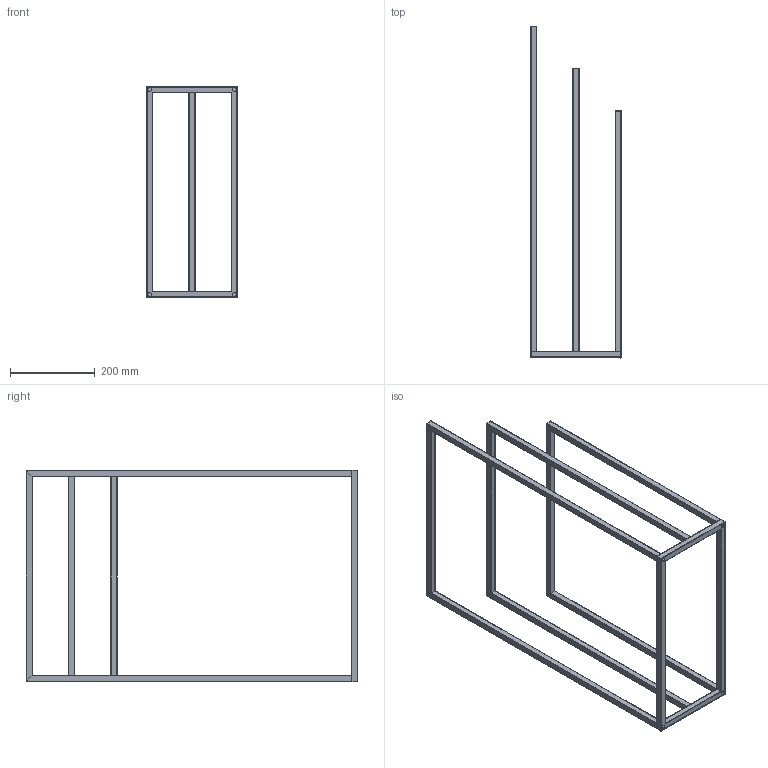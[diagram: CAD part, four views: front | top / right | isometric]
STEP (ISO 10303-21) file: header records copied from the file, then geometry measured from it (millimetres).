
FILE_DESCRIPTION (( 'STEP AP214' ), '1' );
FILE_NAME ('Stojak na 3 rêczniki APPENA.STEP', '2026-04-08T08:26:45', ( '' ), ( '' ), 'SwSTEP 2.0', 'SolidWorks 2021', '' );
FILE_SCHEMA (( 'AUTOMOTIVE_DESIGN' ));
Length unit declared in the file: millimetre
Products named in the file (9): Stojak na 3 rêczniki APPENA; 02-017-0500-S-00-02; 02-017-0500-S-00-01; 02-017-0500-S-00-04; 02-017-0500-S-00-03; 02-017-0500-S-00-05
Assembly tree (13 placements, depth 2):
  Stojak na 3 rêczniki APPENA
    02-017-0500-S-00-01
    02-017-0500-S-00-02
    02-017-0500-S-00-02
    02-017-0500-S-00-01
    02-017-0500-S-00-03  x2
    02-017-0500-S-00-01  x3
    02-017-0500-S-00-04  x2
    02-017-0500-S-00-05  x2
Bounding box: 215 x 785 x 500 mm (x, y, z)
Volume: 544112.2 mm3; surface area: 724469.3 mm2
Topology: 13 solids, 13 shells, 214 faces, 588 edges, 392 vertices
Faces by surface type: plane 138, cylinder 76
Entity records: 5078 total; most frequent: CARTESIAN_POINT 996, ORIENTED_EDGE 816, DIRECTION 736, EDGE_CURVE 408, LINE 296, VECTOR 296, VERTEX_POINT 272, AXIS2_PLACEMENT_3D 220
